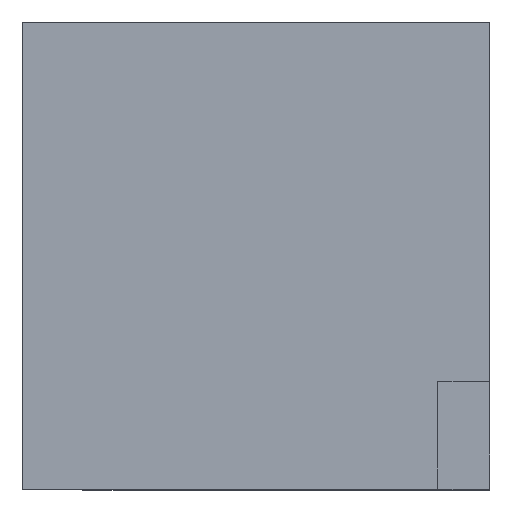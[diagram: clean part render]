
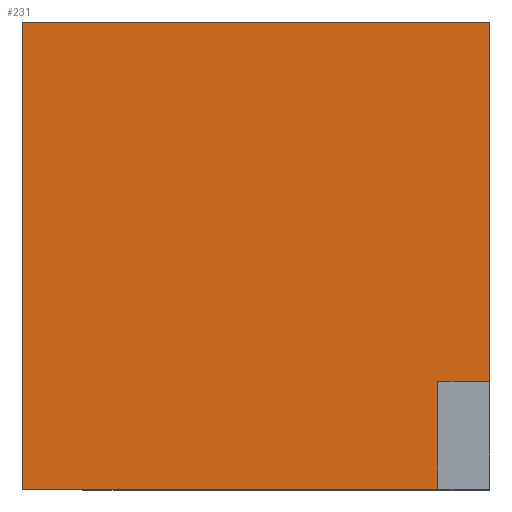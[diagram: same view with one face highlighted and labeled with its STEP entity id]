
A CAD part, top view. The second image highlights one B-rep face of the part: STEP entity #231.
In plain terms, the highlighted planar face has unit normal (0, 0, 1).
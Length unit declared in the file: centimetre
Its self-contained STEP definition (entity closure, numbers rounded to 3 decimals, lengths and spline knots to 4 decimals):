
#32 = LINE ( 'NONE', #565, #751 ) ;
#59 = LINE ( 'NONE', #611, #158 ) ;
#60 = CARTESIAN_POINT ( 'NONE',  ( 0., 0., 1000. ) ) ;
#64 = VECTOR ( 'NONE', #99, 100. ) ;
#65 = ORIENTED_EDGE ( 'NONE', *, *, #251, .T. ) ;
#71 = VERTEX_POINT ( 'NONE', #622 ) ;
#92 = DIRECTION ( 'NONE',  ( 0., 0., 1. ) ) ;
#99 = DIRECTION ( 'NONE',  ( 0., 1., 0. ) ) ;
#113 = EDGE_CURVE ( 'NONE', #71, #336, #431, .T. ) ;
#125 = DIRECTION ( 'NONE',  ( 0., -1., 0. ) ) ;
#143 = LINE ( 'NONE', #266, #169 ) ;
#150 = DIRECTION ( 'NONE',  ( -1., 0., 0. ) ) ;
#156 = VERTEX_POINT ( 'NONE', #625 ) ;
#158 = VECTOR ( 'NONE', #125, 100. ) ;
#163 = EDGE_CURVE ( 'NONE', #340, #372, #32, .T. ) ;
#168 = DIRECTION ( 'NONE',  ( 1., 0., 0. ) ) ;
#169 = VECTOR ( 'NONE', #150, 100. ) ;
#193 = VECTOR ( 'NONE', #168, 100. ) ;
#210 = PLANE ( 'NONE',  #349 ) ;
#217 = ORIENTED_EDGE ( 'NONE', *, *, #163, .T. ) ;
#225 = CARTESIAN_POINT ( 'NONE',  ( 889.0835, 0., 1000. ) ) ;
#231 = ADVANCED_FACE ( 'NONE', ( #632 ), #210, .T. ) ;
#251 = EDGE_CURVE ( 'NONE', #156, #71, #143, .T. ) ;
#266 = CARTESIAN_POINT ( 'NONE',  ( 0., 1000., 1000. ) ) ;
#281 = ORIENTED_EDGE ( 'NONE', *, *, #113, .T. ) ;
#287 = CARTESIAN_POINT ( 'NONE',  ( 1000., 231.1248, 1000. ) ) ;
#330 = EDGE_CURVE ( 'NONE', #372, #156, #724, .T. ) ;
#336 = VERTEX_POINT ( 'NONE', #769 ) ;
#340 = VERTEX_POINT ( 'NONE', #531 ) ;
#346 = VERTEX_POINT ( 'NONE', #225 ) ;
#349 = AXIS2_PLACEMENT_3D ( 'NONE', #394, #92, #639 ) ;
#372 = VERTEX_POINT ( 'NONE', #287 ) ;
#394 = CARTESIAN_POINT ( 'NONE',  ( 0., 0., 1000. ) ) ;
#408 = LINE ( 'NONE', #60, #193 ) ;
#417 = ORIENTED_EDGE ( 'NONE', *, *, #330, .T. ) ;
#419 = EDGE_CURVE ( 'NONE', #336, #346, #408, .T. ) ;
#431 = LINE ( 'NONE', #508, #512 ) ;
#508 = CARTESIAN_POINT ( 'NONE',  ( 0., 1000., 1000. ) ) ;
#512 = VECTOR ( 'NONE', #684, 100. ) ;
#531 = CARTESIAN_POINT ( 'NONE',  ( 889.0835, 231.1248, 1000. ) ) ;
#565 = CARTESIAN_POINT ( 'NONE',  ( 889.0835, 231.1248, 1000. ) ) ;
#590 = CARTESIAN_POINT ( 'NONE',  ( 1000., 1000., 1000. ) ) ;
#600 = EDGE_LOOP ( 'NONE', ( #217, #417, #65, #281, #646, #778 ) ) ;
#611 = CARTESIAN_POINT ( 'NONE',  ( 889.0835, 0., 1000. ) ) ;
#622 = CARTESIAN_POINT ( 'NONE',  ( 0., 1000., 1000. ) ) ;
#625 = CARTESIAN_POINT ( 'NONE',  ( 1000., 1000., 1000. ) ) ;
#630 = DIRECTION ( 'NONE',  ( 1., 0., 0. ) ) ;
#632 = FACE_OUTER_BOUND ( 'NONE', #600, .T. ) ;
#639 = DIRECTION ( 'NONE',  ( 1., 0., 0. ) ) ;
#646 = ORIENTED_EDGE ( 'NONE', *, *, #419, .T. ) ;
#684 = DIRECTION ( 'NONE',  ( 0., -1., 0. ) ) ;
#701 = EDGE_CURVE ( 'NONE', #340, #346, #59, .T. ) ;
#724 = LINE ( 'NONE', #590, #64 ) ;
#751 = VECTOR ( 'NONE', #630, 100. ) ;
#769 = CARTESIAN_POINT ( 'NONE',  ( 0., 0., 1000. ) ) ;
#778 = ORIENTED_EDGE ( 'NONE', *, *, #701, .F. ) ;
